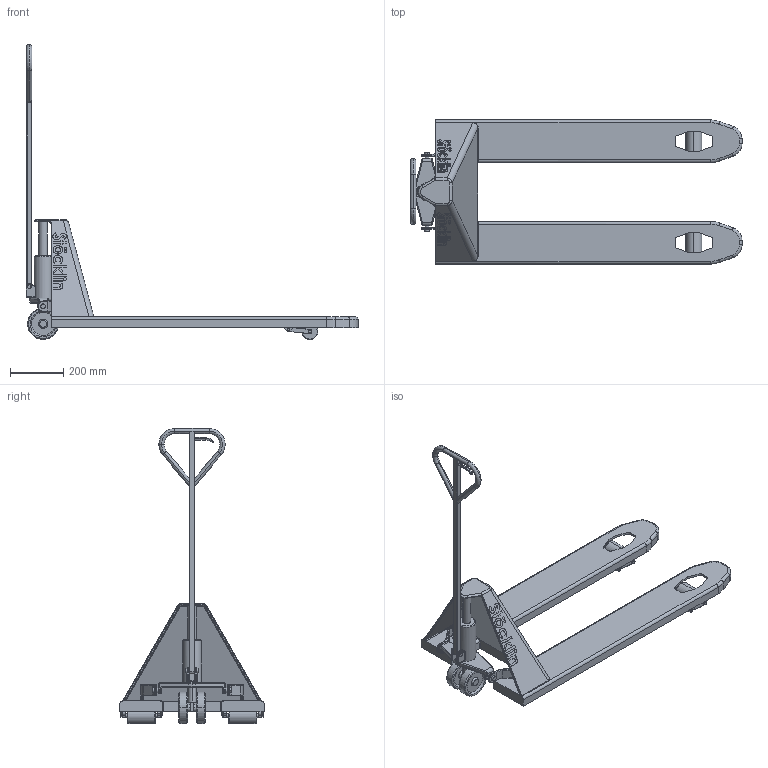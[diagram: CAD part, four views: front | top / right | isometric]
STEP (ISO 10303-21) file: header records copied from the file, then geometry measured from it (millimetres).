
FILE_DESCRIPTION (( 'STEP AP203' ), '1' );
FILE_NAME ('hagahuwa.STEP', '2010-03-19T14:22:05', ( '' ), ( '' ), 'SwSTEP 2.0', 'SolidWorks 2009', '' );
FILE_SCHEMA (( 'CONFIG_CONTROL_DESIGN' ));
Products named in the file (1): hagahuwa
Bounding box: 1244 x 540 x 1105.92 mm (x, y, z)
Volume: 8679515.7 mm3; surface area: 1868515.6 mm2
Topology: 1 solids, 1 shells, 880 faces, 2155 edges, 1318 vertices
Faces by surface type: cylinder 304, plane 288, bspline 153, torus 87, cone 34, sphere 14
Entity records: 32360 total; most frequent: CARTESIAN_POINT 12363, ORIENTED_EDGE 4282, DIRECTION 3986, EDGE_CURVE 2141, AXIS2_PLACEMENT_3D 1455, VERTEX_POINT 1316, VECTOR 1076, LINE 1076
